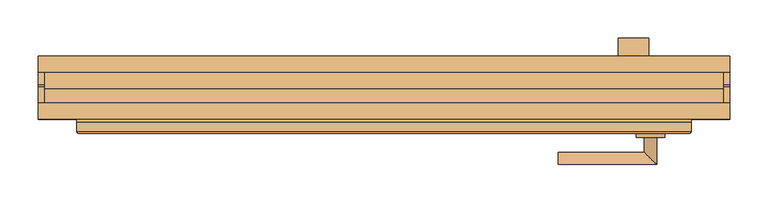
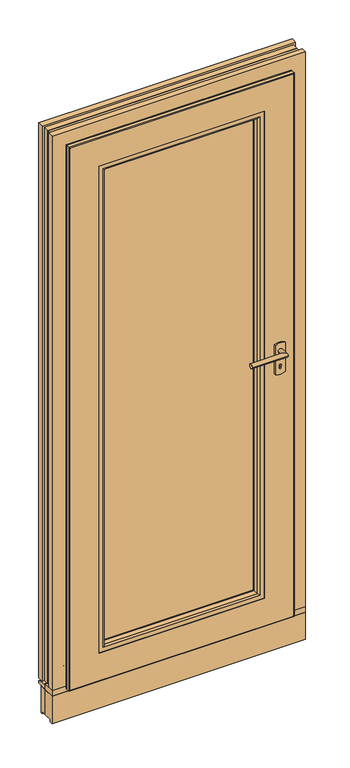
"""IFC4 building model written with IfcOpenShell, lengths in millimetres: door geometry, Doors_GEALAN_S9000_Front-Door : Doors_GEALAN_S9000_Front-Door 2."""

from ifc_helpers import new_model, si_unit, point, frame, frame_2d, origin, origin_with_axes, place, context, project, spatial, polyline, circle_curve, ellipse_curve, trimmed, segment, composite_curve, outline, extrude, faceted_brep, source, transform, mapped, element, save
from ifc_brep_helpers import plane_surface, cylinder_surface, revolved_surface, advanced_brep


def door_bce1670d(model_context):
    return source(origin(), model_context, "Body", "SolidModel", [
        extrude(outline(polyline([(-31.0, 680.9999998), (-31.0, 693.9777955), (-2.4888979, 693.9777955), (-2.4888979, 1380.9999998), (-31.0, 1380.9999998), (-31.0, 1393.9777955), (10.4888979, 1393.9777955), (10.4888979, 680.9999998), (-31.0, 680.9999998)])), frame((305.0988556, 0.0, 0.0), z_axis=(1.0, 0.0, 0.0), x_axis=(0.0, 1.0, 0.0)), (0.0, 0.0, 1.0), 39.8022889),
        advanced_brep(
        [(338.9719061, -118.5, 1030.9999998), (355.0280939, -118.5, 1030.9999998), (338.9719061, -137.9719061, 1030.9999998), (355.0280939, -154.0280939, 1030.9999998), (227.0, -137.9719061, 1030.9999998), (227.0, -154.0280939, 1030.9999998)],
        [
            (0, 1, circle_curve(frame((347.0, -118.5, 1030.9999998), z_axis=(0.0, 1.0, 0.0), x_axis=(1.0, 0.0, 0.0)), 8.0280939)),
            (1, 0, circle_curve(frame((347.0, -118.5, 1030.9999998), z_axis=(0.0, 1.0, 0.0), x_axis=(1.0, 0.0, 0.0)), 8.0280939)),
            (0, 2),
            (2, 3, ellipse_curve(frame((347.0, -146.0, 1030.9999998), z_axis=(0.7071067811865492, 0.7071067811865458, 0.0), x_axis=(-0.7071067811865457, 0.7071067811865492, 0.0)), 11.3534392, 8.0280939)),
            (3, 1),
            (3, 2, ellipse_curve(frame((347.0, -146.0, 1030.9999998), z_axis=(0.7071067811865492, 0.7071067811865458, 0.0), x_axis=(-0.7071067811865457, 0.7071067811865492, 0.0)), 11.3534392, 8.0280939)),
            (4, 5, circle_curve(frame((227.0, -146.0, 1030.9999998), z_axis=(-1.0, 0.0, 0.0), x_axis=(0.0, -1.0, 0.0)), 8.0280939)),
            (5, 4, circle_curve(frame((227.0, -146.0, 1030.9999998), z_axis=(-1.0, 0.0, 0.0), x_axis=(0.0, -1.0, 0.0)), 8.0280939)),
            (2, 4),
            (5, 3),
        ],
        [
            plane_surface(frame((347.0, -118.5, 1030.9999998), z_axis=(0.0, 1.0, 0.0), x_axis=(0.0, 0.0, 1.0))),
            cylinder_surface(frame((347.0, -118.5, 1030.9999998), z_axis=(0.0, 1.0, 0.0), x_axis=(1.0, 0.0, 0.0)), 8.0280939),
            plane_surface(frame((227.0, -146.0, 1030.9999998), z_axis=(-1.0, 0.0, 0.0), x_axis=(0.0, 0.0, 1.0))),
            cylinder_surface(frame((347.0, -146.0, 1030.9999998), z_axis=(1.0, 0.0, 0.0), x_axis=(0.0, -1.0, 0.0)), 8.0280939),
        ],
        [
            (0, [[1, 2]]),
            (1, [[-1, 3, 4, 5]]),
            (1, [[-2, -5, 6, -3]]),
            (2, [[7, 8]]),
            (3, [[-4, 9, -8, 10]]),
            (3, [[-6, -10, -7, -9]]),
        ],
    ),
        advanced_brep(
        [(347.0, -113.5, 1060.4999998), (365.5, -113.5, 1055.4999998), (365.5, -113.5, 947.4999998), (347.0, -113.5, 942.4999998), (328.5, -113.5, 947.4999998), (328.5, -113.5, 1055.4999998), (348.9792033, -113.5, 972.009504), (345.0207967, -113.5, 972.009504), (345.0207967, -113.5, 965.740473), (348.9792033, -113.5, 965.740473), (328.5, -118.5, 1055.4999998), (328.5, -118.5, 947.4999998), (347.0, -118.5, 1060.4999998), (347.0, -118.5, 942.4999998), (365.5, -118.5, 947.4999998), (365.5, -118.5, 1055.4999998), (345.0207967, -118.5, 972.009504), (348.9792033, -118.5, 972.009504), (348.9792033, -118.5, 965.740473), (345.0207967, -118.5, 965.740473)],
        [
            (0, 1, circle_curve(frame((347.0, -113.5, 1023.7749998), z_axis=(0.0, 1.0, 0.0), x_axis=(1.0, 0.0, 0.0)), 36.725)),
            (1, 2),
            (2, 3, circle_curve(frame((347.0, -113.5, 979.2249998), z_axis=(0.0, 1.0, 0.0), x_axis=(1.0, 0.0, 0.0)), 36.725)),
            (3, 4, circle_curve(frame((347.0, -113.5, 979.2249998), z_axis=(0.0, 1.0, 0.0), x_axis=(1.0, 0.0, 0.0)), 36.725)),
            (4, 5),
            (5, 0, circle_curve(frame((347.0, -113.5, 1023.7749998), z_axis=(0.0, 1.0, 0.0), x_axis=(1.0, 0.0, 0.0)), 36.725)),
            (6, 7, circle_curve(frame((347.0, -113.5, 975.5006417), z_axis=(0.0, -1.0, 0.0), x_axis=(1.0, 0.0, 0.0)), 4.0131394)),
            (7, 8),
            (8, 9, circle_curve(frame((347.0, -113.5, 965.740473), z_axis=(0.0, -1.0, 0.0), x_axis=(1.0, 0.0, 0.0)), 1.9792033)),
            (9, 6),
            (10, 5),
            (4, 11),
            (11, 10),
            (12, 10, circle_curve(frame((347.0, -118.5, 1023.7749998), z_axis=(0.0, -1.0, 0.0), x_axis=(1.0, 0.0, 0.0)), 36.725)),
            (11, 13, circle_curve(frame((347.0, -118.5, 979.2249998), z_axis=(0.0, -1.0, 0.0), x_axis=(1.0, 0.0, 0.0)), 36.725)),
            (13, 14, circle_curve(frame((347.0, -118.5, 979.2249998), z_axis=(0.0, -1.0, 0.0), x_axis=(1.0, 0.0, 0.0)), 36.725)),
            (14, 15),
            (15, 12, circle_curve(frame((347.0, -118.5, 1023.7749998), z_axis=(0.0, -1.0, 0.0), x_axis=(1.0, 0.0, 0.0)), 36.725)),
            (16, 17, circle_curve(frame((347.0, -118.5, 975.5006417), z_axis=(0.0, 1.0, 0.0), x_axis=(1.0, 0.0, 0.0)), 4.0131394)),
            (17, 18),
            (18, 19, circle_curve(frame((347.0, -118.5, 965.740473), z_axis=(0.0, 1.0, 0.0), x_axis=(1.0, 0.0, 0.0)), 1.9792033)),
            (19, 16),
            (1, 15),
            (14, 2),
            (6, 17),
            (16, 7),
            (19, 8),
            (18, 9),
        ],
        [
            plane_surface(frame((365.5, -113.5, 1060.4999998), z_axis=(0.0, 1.0, 0.0), x_axis=(0.0, 0.0, -1.0))),
            plane_surface(frame((328.5, -113.5, 1060.4999998), z_axis=(-1.0, 0.0, 0.0), x_axis=(0.0, 0.0, -1.0))),
            plane_surface(frame((328.5, -118.5, 1060.4999998), z_axis=(0.0, -1.0, 0.0), x_axis=(0.0, 0.0, -1.0))),
            plane_surface(frame((365.5, -118.5, 1060.4999998), z_axis=(1.0, 0.0, 0.0), x_axis=(0.0, 0.0, -1.0))),
            revolved_surface(polyline([(351.0131394, -118.5, 975.5006417), (351.0131394, -113.5, 975.5006417)]), (347.0, -108.5, 975.5006417), (0.0, -1.0, 0.0)),
            plane_surface(frame((345.0207967, -358.5, 972.009504), z_axis=(1.0, 0.0, 0.0), x_axis=(0.0, 1.0, 0.0))),
            revolved_surface(polyline([(348.9792033, -118.5, 965.740473), (348.9792033, -113.5, 965.740473)]), (347.0, -108.5, 965.740473), (0.0, -1.0, 0.0)),
            plane_surface(frame((348.9792033, -358.5, 965.740473), z_axis=(-1.0, 0.0, 0.0), x_axis=(0.0, 1.0, 0.0))),
            cylinder_surface(frame((347.0, -108.5, 1023.7749998), z_axis=(0.0, 1.0, 0.0), x_axis=(1.0, 0.0, 0.0)), 36.725),
            cylinder_surface(frame((347.0, -108.5, 979.2249998), z_axis=(0.0, 1.0, 0.0), x_axis=(1.0, 0.0, 0.0)), 36.725),
        ],
        [
            (0, [[1, 2, 3, 4, 5, 6], [7, 8, 9, 10]]),
            (1, [[11, -5, 12, 13]]),
            (2, [[14, -13, 15, 16, 17, 18], [19, 20, 21, 22]]),
            (3, [[23, -17, 24, -2]]),
            (4, [[25, -19, 26, -7]]),
            (5, [[-26, -22, 27, -8]]),
            (6, [[-27, -21, 28, -9]]),
            (7, [[-25, -10, -28, -20]]),
            (8, [[-1, -6, -11, -14, -18, -23]]),
            (9, [[-4, -3, -24, -16, -15, -12]]),
        ],
    ),
        extrude(outline(polyline([(-289.0, -49.0), (289.0, -49.0), (289.0, -89.0), (-289.0, -89.0), (-289.0, -49.0)])), frame((0.0, 0.0, 122.9999998), z_axis=(0.0, 0.0, 1.0), x_axis=(1.0, 0.0, 0.0)), (0.0, 0.0, 1.0), 1816.0),
        extrude(outline(polyline([(129.2876963, -282.7123035), (129.2876963, 282.7123035), (1932.7123033, 282.7123035), (1932.7123033, -282.7123035), (129.2876963, -282.7123035)]), holes=[polyline([(1917.7123033, -267.7123035), (1917.7123033, 267.7123035), (144.2876963, 267.7123035), (144.2876963, -267.7123035), (1917.7123033, -267.7123035)])]), frame((0.0, -49.0, 0.0), z_axis=(0.0, 1.0, 0.0), x_axis=(0.0, 0.0, 1.0)), (0.0, 0.0, 1.0), 3.0),
        extrude(outline(polyline([(132.4987826, -279.5012172), (132.4987826, 279.5012172), (1929.501217, 279.5012172), (1929.501217, -279.5012172), (132.4987826, -279.5012172)]), holes=[polyline([(1918.001217, -268.0012172), (1918.001217, 268.0012172), (143.9987826, 268.0012172), (143.9987826, -268.0012172), (1918.001217, -268.0012172)])]), frame((0.0, -91.5, 0.0), z_axis=(0.0, 1.0, 0.0), x_axis=(0.0, 0.0, 1.0)), (0.0, 0.0, 1.0), 2.5),
        extrude(outline(polyline([(11.9999998, -400.0), (11.9999998, 400.0), (2049.9999998, 400.0), (2049.9999998, -400.0), (11.9999998, -400.0)]), holes=[polyline([(2041.1999998, -391.2), (2041.1999998, 391.2), (20.7999998, 391.2), (20.7999998, -391.2), (2041.1999998, -391.2)])]), frame((0.0, -98.5, 0.0), z_axis=(0.0, 1.0, 0.0), x_axis=(0.0, 0.0, 1.0)), (0.0, 0.0, 1.0), 3.5),
        advanced_brep(
        [(-275.9578203, -31.0118988, 1925.95782), (-270.5399484, -35.4470857, 1920.5399482), (-270.5399484, -35.4470857, 141.4600514), (-275.9578203, -31.0118988, 136.0421795), (-371.9644818, -52.4682195, 2021.9644816), (-371.9644818, -31.0118988, 2021.9644816), (-371.9644818, -31.0118988, 40.0355179), (-371.9644818, -52.4682195, 40.0355179), (-380.0, -72.5, 2029.9999998), (-380.0, -52.4682195, 2029.9999998), (-380.0, -52.4682195, 31.9999998), (-380.0, -72.5, 31.9999998), (-298.1, -46.0, 1948.0999998), (-298.1, -72.5, 1948.0999998), (-298.1, -72.5, 113.8999998), (-298.1, -46.0, 113.8999998), (-267.7123035, -46.0, 1917.7123033), (-267.7123035, -46.0, 144.2876963), (270.5399484, -35.4470857, 141.4600514), (275.9578203, -31.0118988, 136.0421795), (371.9644818, -31.0118988, 40.0355179), (371.9644818, -52.4682195, 40.0355179), (380.0, -52.4682195, 31.9999998), (380.0, -72.5, 31.9999998), (298.1, -72.5, 113.8999998), (298.1, -46.0, 113.8999998), (267.7123035, -46.0, 144.2876963), (270.5399484, -35.4470857, 1920.5399482), (275.9578203, -31.0118988, 1925.95782), (371.9644818, -31.0118988, 2021.9644816), (371.9644818, -52.4682195, 2021.9644816), (380.0, -52.4682195, 2029.9999998), (380.0, -72.5, 2029.9999998), (298.1, -72.5, 1948.0999998), (298.1, -46.0, 1948.0999998), (267.7123035, -46.0, 1917.7123033)],
        [
            (0, 1, ellipse_curve(frame((-276.3355033, -37.0, 1926.3355031), z_axis=(-0.7071067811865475, 0.0, -0.7071067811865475), x_axis=(-0.7071067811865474, 0.0, 0.7071067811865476)), 8.4852814, 6.0)),
            (1, 2),
            (2, 3, ellipse_curve(frame((-276.3355033, -37.0, 135.6644965), z_axis=(-0.7071067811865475, 0.0, 0.7071067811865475), x_axis=(0.7071067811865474, 0.0, 0.7071067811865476)), 8.4852814, 6.0)),
            (3, 0),
            (4, 5),
            (5, 6),
            (6, 7),
            (7, 4),
            (8, 9),
            (9, 10),
            (10, 11),
            (11, 8),
            (12, 13),
            (13, 14),
            (14, 15),
            (15, 12),
            (1, 16),
            (16, 17),
            (17, 2),
            (2, 18),
            (18, 19, ellipse_curve(frame((276.3355033, -37.0, 135.6644965), z_axis=(-0.7071067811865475, 0.0, -0.7071067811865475), x_axis=(-0.7071067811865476, 0.0, 0.7071067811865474)), 8.4852814, 6.0)),
            (19, 3),
            (6, 20),
            (20, 21),
            (21, 7),
            (10, 22),
            (22, 23),
            (23, 11),
            (14, 24),
            (24, 25),
            (25, 15),
            (17, 26),
            (26, 18),
            (18, 27),
            (27, 28, ellipse_curve(frame((276.3355033, -37.0, 1926.3355031), z_axis=(0.7071067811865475, 0.0, -0.7071067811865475), x_axis=(-0.7071067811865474, 0.0, -0.7071067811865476)), 8.4852814, 6.0)),
            (28, 19),
            (20, 29),
            (29, 30),
            (30, 21),
            (22, 31),
            (31, 32),
            (32, 23),
            (24, 33),
            (33, 34),
            (34, 25),
            (26, 35),
            (35, 27),
            (27, 1),
            (0, 28),
            (5, 29),
            (4, 30),
            (9, 31),
            (8, 32),
            (13, 33),
            (12, 34),
            (16, 35),
        ],
        [
            cylinder_surface(frame((-276.3355033, -37.0, 2049.9999998), z_axis=(0.0, 0.0, 1.0), x_axis=(0.0, -1.0, 0.0)), 6.0),
            plane_surface(frame((-371.9644818, -31.0118988, 2021.9644816), z_axis=(-1.0, 0.0, 0.0), x_axis=(0.0, 0.0, -1.0))),
            plane_surface(frame((-380.0, -52.4682195, 2029.9999998), z_axis=(-1.0, 0.0, 0.0), x_axis=(0.0, 0.0, -1.0))),
            plane_surface(frame((-298.1, -72.5, 1948.0999998), z_axis=(1.0, 0.0, 0.0), x_axis=(0.0, 0.0, -1.0))),
            plane_surface(frame((-267.7123035, -46.0, 1917.7123033), z_axis=(0.9659258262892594, 0.25881904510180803, 0.0), x_axis=(0.0, 0.0, -1.0))),
            cylinder_surface(frame((-400.0, -37.0, 135.6644965), z_axis=(-1.0, 0.0, 0.0), x_axis=(0.0, -1.0, 0.0)), 6.0),
            plane_surface(frame((-371.9644818, -31.0118988, 40.0355179), z_axis=(0.0, 0.0, -1.0), x_axis=(1.0, 0.0, 0.0))),
            plane_surface(frame((-380.0, -52.4682195, 31.9999998), z_axis=(0.0, 0.0, -1.0), x_axis=(1.0, 0.0, 0.0))),
            plane_surface(frame((-298.1, -72.5, 113.8999998), z_axis=(0.0, 0.0, 1.0), x_axis=(1.0, 0.0, 0.0))),
            plane_surface(frame((-267.7123035, -46.0, 144.2876963), z_axis=(0.0, 0.25881904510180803, 0.9659258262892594), x_axis=(1.0, 0.0, 0.0))),
            cylinder_surface(frame((276.3355033, -37.0, 11.9999998), z_axis=(0.0, 0.0, -1.0), x_axis=(0.0, -1.0, 0.0)), 6.0),
            plane_surface(frame((371.9644818, -31.0118988, 40.0355179), z_axis=(1.0, 0.0, 0.0), x_axis=(0.0, 0.0, 1.0))),
            plane_surface(frame((380.0, -52.4682195, 31.9999998), z_axis=(1.0, 0.0, 0.0), x_axis=(0.0, 0.0, 1.0))),
            plane_surface(frame((298.1, -72.5, 113.8999998), z_axis=(-1.0, 0.0, 0.0), x_axis=(0.0, 0.0, 1.0))),
            plane_surface(frame((267.7123035, -46.0, 144.2876963), z_axis=(-0.9659258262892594, 0.25881904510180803, 0.0), x_axis=(0.0, 0.0, 1.0))),
            cylinder_surface(frame((400.0, -37.0, 1926.3355031), z_axis=(1.0, 0.0, 0.0), x_axis=(0.0, -1.0, 0.0)), 6.0),
            plane_surface(frame((275.9578203, -31.0118988, 1925.95782), z_axis=(0.0, 1.0, 0.0), x_axis=(-1.0, 0.0, 0.0))),
            plane_surface(frame((371.9644818, -31.0118988, 2021.9644816), z_axis=(0.0, 0.0, 1.0), x_axis=(-1.0, 0.0, 0.0))),
            plane_surface(frame((371.9644818, -52.4682195, 2021.9644816), z_axis=(0.0, 1.0, 0.0), x_axis=(-1.0, 0.0, 0.0))),
            plane_surface(frame((380.0, -52.4682195, 2029.9999998), z_axis=(0.0, 0.0, 1.0), x_axis=(-1.0, 0.0, 0.0))),
            plane_surface(frame((380.0, -72.5, 2029.9999998), z_axis=(0.0, -1.0, 0.0), x_axis=(-1.0, 0.0, 0.0))),
            plane_surface(frame((298.1, -72.5, 1948.0999998), z_axis=(0.0, 0.0, -1.0), x_axis=(-1.0, 0.0, 0.0))),
            plane_surface(frame((298.1, -46.0, 1948.0999998), z_axis=(0.0, -1.0, 0.0), x_axis=(-1.0, 0.0, 0.0))),
            plane_surface(frame((267.7123035, -46.0, 1917.7123033), z_axis=(0.0, 0.25881904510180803, -0.9659258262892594), x_axis=(-1.0, 0.0, 0.0))),
        ],
        [
            (0, [[1, 2, 3, 4]]),
            (1, [[5, 6, 7, 8]]),
            (2, [[9, 10, 11, 12]]),
            (3, [[13, 14, 15, 16]]),
            (4, [[17, 18, 19, -2]]),
            (5, [[-3, 20, 21, 22]]),
            (6, [[-7, 23, 24, 25]]),
            (7, [[-11, 26, 27, 28]]),
            (8, [[-15, 29, 30, 31]]),
            (9, [[-19, 32, 33, -20]]),
            (10, [[-21, 34, 35, 36]]),
            (11, [[-24, 37, 38, 39]]),
            (12, [[-27, 40, 41, 42]]),
            (13, [[-30, 43, 44, 45]]),
            (14, [[-33, 46, 47, -34]]),
            (15, [[-35, 48, -1, 49]]),
            (16, [[50, -37, -23, -6], [-22, -36, -49, -4]]),
            (17, [[-38, -50, -5, 51]]),
            (18, [[52, -40, -26, -10], [-25, -39, -51, -8]]),
            (19, [[-41, -52, -9, 53]]),
            (20, [[-28, -42, -53, -12], [54, -43, -29, -14]]),
            (21, [[-44, -54, -13, 55]]),
            (22, [[-31, -45, -55, -16], [56, -46, -32, -18]]),
            (23, [[-47, -56, -17, -48]]),
        ],
    ),
        advanced_brep(
        [(-400.0, -111.0, 2049.9999998), (-400.0, -98.5, 2049.9999998), (-400.0, -98.5, 11.9999998), (-400.0, -111.0, 11.9999998), (-397.5, -113.5, 2047.4999998), (-397.5, -113.5, 14.4999998), (-294.0, -113.5, 1943.9999998), (-294.0, -113.5, 117.9999998), (-294.0, -101.5718587, 117.9999998), (-294.0, -101.5718587, 1943.9999998), (-298.1, -72.5, 1948.0999998), (-298.1, -101.5718587, 1948.0999998), (-298.1, -101.5718587, 113.8999998), (-298.1, -72.5, 113.8999998), (-380.0, -98.5, 2029.9999998), (-380.0, -72.5, 2029.9999998), (-380.0, -72.5, 31.9999998), (-380.0, -98.5, 31.9999998), (400.0, -98.5, 11.9999998), (400.0, -111.0, 11.9999998), (397.5, -113.5, 14.4999998), (294.0, -113.5, 117.9999998), (294.0, -101.5718587, 117.9999998), (298.1, -101.5718587, 113.8999998), (298.1, -72.5, 113.8999998), (380.0, -72.5, 31.9999998), (380.0, -98.5, 31.9999998), (400.0, -98.5, 2049.9999998), (400.0, -111.0, 2049.9999998), (397.5, -113.5, 2047.4999998), (294.0, -113.5, 1943.9999998), (294.0, -101.5718587, 1943.9999998), (298.1, -101.5718587, 1948.0999998), (298.1, -72.5, 1948.0999998), (380.0, -72.5, 2029.9999998), (380.0, -98.5, 2029.9999998)],
        [
            (0, 1),
            (1, 2),
            (2, 3),
            (3, 0),
            (4, 0, ellipse_curve(frame((-397.5, -111.0, 2047.4999998), z_axis=(-0.7071067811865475, 0.0, -0.7071067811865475), x_axis=(-0.7071067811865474, 0.0, 0.7071067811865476)), 3.5355339, 2.5)),
            (3, 5, ellipse_curve(frame((-397.5, -111.0, 14.4999998), z_axis=(-0.7071067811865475, 0.0, 0.7071067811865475), x_axis=(0.7071067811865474, 0.0, 0.7071067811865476)), 3.5355339, 2.5)),
            (5, 4),
            (6, 7),
            (7, 8),
            (8, 9),
            (9, 6),
            (10, 11),
            (11, 12),
            (12, 13),
            (13, 10),
            (14, 15),
            (15, 16),
            (16, 17),
            (17, 14),
            (2, 18),
            (18, 19),
            (19, 3),
            (19, 20, ellipse_curve(frame((397.5, -111.0, 14.4999998), z_axis=(-0.7071067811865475, 0.0, -0.7071067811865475), x_axis=(-0.7071067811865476, 0.0, 0.7071067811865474)), 3.5355339, 2.5)),
            (20, 5),
            (7, 21),
            (21, 22),
            (22, 8),
            (12, 23),
            (23, 24),
            (24, 13),
            (16, 25),
            (25, 26),
            (26, 17),
            (18, 27),
            (27, 28),
            (28, 19),
            (28, 29, ellipse_curve(frame((397.5, -111.0, 2047.4999998), z_axis=(0.7071067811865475, 0.0, -0.7071067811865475), x_axis=(-0.7071067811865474, 0.0, -0.7071067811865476)), 3.5355339, 2.5)),
            (29, 20),
            (21, 30),
            (30, 31),
            (31, 22),
            (23, 32),
            (32, 33),
            (33, 24),
            (25, 34),
            (34, 35),
            (35, 26),
            (27, 1),
            (0, 28),
            (4, 29),
            (6, 30),
            (9, 31),
            (11, 32),
            (10, 33),
            (15, 34),
            (14, 35),
        ],
        [
            plane_surface(frame((-400.0, -98.5, 2049.9999998), z_axis=(-1.0, 0.0, 0.0), x_axis=(0.0, 0.0, -1.0))),
            cylinder_surface(frame((-397.5, -111.0, 2049.9999998), z_axis=(0.0, 0.0, 1.0), x_axis=(0.0, -1.0, 0.0)), 2.5),
            plane_surface(frame((-294.0, -106.2, 1943.9999998), z_axis=(1.0, 0.0, 0.0), x_axis=(0.0, 0.0, -1.0))),
            plane_surface(frame((-298.1, -101.5718587, 1948.0999998), z_axis=(1.0, 0.0, 0.0), x_axis=(0.0, 0.0, -1.0))),
            plane_surface(frame((-380.0, -72.5, 2029.9999998), z_axis=(-1.0, 0.0, 0.0), x_axis=(0.0, 0.0, -1.0))),
            plane_surface(frame((-400.0, -98.5, 11.9999998), z_axis=(0.0, 0.0, -1.0), x_axis=(1.0, 0.0, 0.0))),
            cylinder_surface(frame((-400.0, -111.0, 14.4999998), z_axis=(-1.0, 0.0, 0.0), x_axis=(0.0, -1.0, 0.0)), 2.5),
            plane_surface(frame((-294.0, -106.2, 117.9999998), z_axis=(0.0, 0.0, 1.0), x_axis=(1.0, 0.0, 0.0))),
            plane_surface(frame((-298.1, -101.5718587, 113.8999998), z_axis=(0.0, 0.0, 1.0), x_axis=(1.0, 0.0, 0.0))),
            plane_surface(frame((-380.0, -72.5, 31.9999998), z_axis=(0.0, 0.0, -1.0), x_axis=(1.0, 0.0, 0.0))),
            plane_surface(frame((400.0, -98.5, 11.9999998), z_axis=(1.0, 0.0, 0.0), x_axis=(0.0, 0.0, 1.0))),
            cylinder_surface(frame((397.5, -111.0, 11.9999998), z_axis=(0.0, 0.0, -1.0), x_axis=(0.0, -1.0, 0.0)), 2.5),
            plane_surface(frame((294.0, -106.2, 117.9999998), z_axis=(-1.0, 0.0, 0.0), x_axis=(0.0, 0.0, 1.0))),
            plane_surface(frame((298.1, -101.5718587, 113.8999998), z_axis=(-1.0, 0.0, 0.0), x_axis=(0.0, 0.0, 1.0))),
            plane_surface(frame((380.0, -72.5, 31.9999998), z_axis=(1.0, 0.0, 0.0), x_axis=(0.0, 0.0, 1.0))),
            plane_surface(frame((400.0, -98.5, 2049.9999998), z_axis=(0.0, 0.0, 1.0), x_axis=(-1.0, 0.0, 0.0))),
            cylinder_surface(frame((400.0, -111.0, 2047.4999998), z_axis=(1.0, 0.0, 0.0), x_axis=(0.0, -1.0, 0.0)), 2.5),
            plane_surface(frame((397.5, -113.5, 2047.4999998), z_axis=(0.0, -1.0, 0.0), x_axis=(-1.0, 0.0, 0.0))),
            plane_surface(frame((294.0, -106.2, 1943.9999998), z_axis=(0.0, 0.0, -1.0), x_axis=(-1.0, 0.0, 0.0))),
            plane_surface(frame((294.0, -101.5718587, 1943.9999998), z_axis=(0.0, 1.0, 0.0), x_axis=(-1.0, 0.0, 0.0))),
            plane_surface(frame((298.1, -101.5718587, 1948.0999998), z_axis=(0.0, 0.0, -1.0), x_axis=(-1.0, 0.0, 0.0))),
            plane_surface(frame((298.1, -72.5, 1948.0999998), z_axis=(0.0, 1.0, 0.0), x_axis=(-1.0, 0.0, 0.0))),
            plane_surface(frame((380.0, -72.5, 2029.9999998), z_axis=(0.0, 0.0, 1.0), x_axis=(-1.0, 0.0, 0.0))),
            plane_surface(frame((380.0, -98.5, 2029.9999998), z_axis=(0.0, 1.0, 0.0), x_axis=(-1.0, 0.0, 0.0))),
        ],
        [
            (0, [[1, 2, 3, 4]]),
            (1, [[5, -4, 6, 7]]),
            (2, [[8, 9, 10, 11]]),
            (3, [[12, 13, 14, 15]]),
            (4, [[16, 17, 18, 19]]),
            (5, [[-3, 20, 21, 22]]),
            (6, [[-6, -22, 23, 24]]),
            (7, [[-9, 25, 26, 27]]),
            (8, [[-14, 28, 29, 30]]),
            (9, [[-18, 31, 32, 33]]),
            (10, [[-21, 34, 35, 36]]),
            (11, [[-23, -36, 37, 38]]),
            (12, [[-26, 39, 40, 41]]),
            (13, [[-29, 42, 43, 44]]),
            (14, [[-32, 45, 46, 47]]),
            (15, [[-35, 48, -1, 49]]),
            (16, [[-37, -49, -5, 50]]),
            (17, [[-24, -38, -50, -7], [51, -39, -25, -8]]),
            (18, [[-40, -51, -11, 52]]),
            (19, [[53, -42, -28, -13], [-27, -41, -52, -10]]),
            (20, [[-43, -53, -12, 54]]),
            (21, [[55, -45, -31, -17], [-30, -44, -54, -15]]),
            (22, [[-46, -55, -16, 56]]),
            (23, [[-48, -34, -20, -2], [-33, -47, -56, -19]]),
        ],
    ),
        extrude(outline(composite_curve([segment(trimmed(circle_curve(frame_2d((-18.0967029, 32.7039134)), 4.9967036), [point((-17.2317591, 37.6251855))], [point((-13.1, 32.7011468))], False, "CARTESIAN"), True, "CONTINUOUS"), segment(polyline([(-13.1, 32.7011468), (-13.1, 31.2999998), (-14.7, 31.2999998), (-14.7, 32.7011468)]), True, "CONTINUOUS"), segment(trimmed(circle_curve(frame_2d((-18.1, 32.7011468)), 3.4), [point((-14.7, 32.7011468))], [point((-17.5095962, 36.0494931))], True, "CARTESIAN"), True, "CONTINUOUS"), segment(polyline([(-17.5095962, 36.0494931), (-30.8399819, 38.3999998), (-34.4, 38.3999998), (-34.4, 31.7999998)]), True, "CONTINUOUS"), segment(trimmed(circle_curve(frame_2d((-35.0, 31.7999998)), 0.6), [point((-34.4, 31.7999998))], [point((-35.6, 31.7999998))], False, "CARTESIAN"), True, "CONTINUOUS"), segment(polyline([(-35.6, 31.7999998), (-35.6, 33.0999998), (-48.7772963, 33.0999998), (-48.7772963, 19.9986184), (-64.6381869, 19.9986184), (-64.6381869, 31.9986184), (-52.4381869, 31.9986184), (-52.4381869, 34.6999998), (-41.3, 34.6999998), (-41.3, 39.9999998), (-30.7437443, 39.9999998), (-17.2317591, 37.6251855)]), True, "CONTINUOUS")], self_intersect=False)), frame((-366.0, 0.0, 0.0), z_axis=(1.0, 0.0, 0.0), x_axis=(0.0, 1.0, 0.0)), (0.0, 0.0, 1.0), 732.0),
        advanced_brep(
        [(-271.8959832, -107.5529143, 1921.895983), (-277.6915381, -112.0, 1927.6915379), (-277.6915381, -112.0, 134.3084616), (-271.8959832, -107.5529143, 140.1040166), (-268.0012172, -93.0174497, 1918.001217), (-268.0012172, -93.0174497, 143.9987826), (-268.0012172, -91.5, 1918.001217), (-268.0012172, -91.5, 143.9987826), (-281.1432253, -96.5, 1931.143225), (-279.8034793, -91.5, 1929.8034791), (-279.8034793, -91.5, 132.1965205), (-281.1432253, -96.5, 130.8567745), (-294.0, -96.5, 1943.9999998), (-294.0, -96.5, 117.9999998), (-294.0, -112.0, 117.9999998), (-294.0, -112.0, 1943.9999998), (277.6915381, -112.0, 134.3084616), (271.8959832, -107.5529143, 140.1040166), (268.0012172, -93.0174497, 143.9987826), (268.0012172, -91.5, 143.9987826), (279.8034793, -91.5, 132.1965205), (281.1432253, -96.5, 130.8567745), (294.0, -96.5, 117.9999998), (294.0, -112.0, 117.9999998), (277.6915381, -112.0, 1927.6915379), (271.8959832, -107.5529143, 1921.895983), (268.0012172, -93.0174497, 1918.001217), (268.0012172, -91.5, 1918.001217), (279.8034793, -91.5, 1929.8034791), (281.1432253, -96.5, 1931.143225), (294.0, -96.5, 1943.9999998), (294.0, -112.0, 1943.9999998)],
        [
            (0, 1, ellipse_curve(frame((-277.6915381, -106.0, 1927.6915379), z_axis=(-0.707106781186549, 0.0, -0.7071067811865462), x_axis=(-0.7071067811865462, 0.0, 0.7071067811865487)), 8.4852814, 6.0)),
            (1, 2),
            (2, 3, ellipse_curve(frame((-277.6915381, -106.0, 134.3084616), z_axis=(-0.7071067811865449, 0.0, 0.70710678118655), x_axis=(0.7071067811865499, 0.0, 0.707106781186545)), 8.4852814, 6.0)),
            (3, 0),
            (4, 0),
            (3, 5),
            (5, 4),
            (6, 4),
            (5, 7),
            (7, 6),
            (8, 9),
            (9, 10),
            (10, 11),
            (11, 8),
            (12, 13),
            (13, 14),
            (14, 15),
            (15, 12),
            (2, 16),
            (16, 17, ellipse_curve(frame((277.6915381, -106.0, 134.3084616), z_axis=(-0.7071067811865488, 0.0, -0.7071067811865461), x_axis=(-0.7071067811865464, 0.0, 0.7071067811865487)), 8.4852814, 6.0)),
            (17, 3),
            (17, 18),
            (18, 5),
            (18, 19),
            (19, 7),
            (10, 20),
            (20, 21),
            (21, 11),
            (13, 22),
            (22, 23),
            (23, 14),
            (16, 24),
            (24, 25, ellipse_curve(frame((277.6915381, -106.0, 1927.6915379), z_axis=(0.7071067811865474, 0.0, -0.7071067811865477), x_axis=(-0.7071067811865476, 0.0, -0.7071067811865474)), 8.4852814, 6.0)),
            (25, 17),
            (25, 26),
            (26, 18),
            (26, 27),
            (27, 19),
            (20, 28),
            (28, 29),
            (29, 21),
            (22, 30),
            (30, 31),
            (31, 23),
            (24, 1),
            (0, 25),
            (4, 26),
            (6, 27),
            (9, 28),
            (8, 29),
            (12, 30),
            (15, 31),
        ],
        [
            cylinder_surface(frame((-277.6915381, -106.0, 2049.9999998), z_axis=(0.0, 0.0, 1.0), x_axis=(0.9659258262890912, -0.2588190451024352, 0.0)), 6.0),
            plane_surface(frame((-271.8959832, -107.5529143, 1921.895983), z_axis=(0.9659258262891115, -0.25881904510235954, 0.0), x_axis=(0.0, 0.0, -1.0))),
            plane_surface(frame((-268.0012172, -93.0174497, 1918.001217), z_axis=(1.0, 0.0, 0.0), x_axis=(0.0, 0.0, -1.0))),
            plane_surface(frame((-279.8034793, -91.5, 1929.8034791), z_axis=(-0.9659258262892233, 0.2588190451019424, 0.0), x_axis=(0.0, 0.0, -1.0))),
            plane_surface(frame((-294.0, -111.0, 1943.9999998), z_axis=(-1.0, 0.0, 0.0), x_axis=(0.0, 0.0, -1.0))),
            cylinder_surface(frame((-400.0, -106.0, 134.3084616), z_axis=(-1.0, 0.0, 0.0), x_axis=(0.0, -0.2588190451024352, 0.9659258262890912)), 6.0),
            plane_surface(frame((-271.8959832, -107.5529143, 140.1040166), z_axis=(0.0, -0.25881904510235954, 0.9659258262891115), x_axis=(1.0, 0.0, 0.0))),
            plane_surface(frame((-268.0012172, -93.0174497, 143.9987826), z_axis=(0.0, 0.0, 1.0), x_axis=(1.0, 0.0, 0.0))),
            plane_surface(frame((-279.8034793, -91.5, 132.1965205), z_axis=(0.0, 0.2588190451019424, -0.9659258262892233), x_axis=(1.0, 0.0, 0.0))),
            plane_surface(frame((-294.0, -111.0, 117.9999998), z_axis=(0.0, 0.0, -1.0), x_axis=(1.0, 0.0, 0.0))),
            cylinder_surface(frame((277.6915381, -106.0, 11.9999998), z_axis=(0.0, 0.0, -1.0), x_axis=(-0.9659258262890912, -0.2588190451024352, 0.0)), 6.0),
            plane_surface(frame((271.8959832, -107.5529143, 140.1040166), z_axis=(-0.9659258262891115, -0.25881904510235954, 0.0), x_axis=(0.0, 0.0, 1.0))),
            plane_surface(frame((268.0012172, -93.0174497, 143.9987826), z_axis=(-1.0, 0.0, 0.0), x_axis=(0.0, 0.0, 1.0))),
            plane_surface(frame((279.8034793, -91.5, 132.1965205), z_axis=(0.9659258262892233, 0.2588190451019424, 0.0), x_axis=(0.0, 0.0, 1.0))),
            plane_surface(frame((294.0, -111.0, 117.9999998), z_axis=(1.0, 0.0, 0.0), x_axis=(0.0, 0.0, 1.0))),
            cylinder_surface(frame((400.0, -106.0, 1927.6915379), z_axis=(1.0, 0.0, 0.0), x_axis=(0.0, -0.2588190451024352, -0.9659258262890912)), 6.0),
            plane_surface(frame((271.8959832, -107.5529143, 1921.895983), z_axis=(0.0, -0.25881904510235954, -0.9659258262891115), x_axis=(-1.0, 0.0, 0.0))),
            plane_surface(frame((268.0012172, -93.0174497, 1918.001217), z_axis=(0.0, 0.0, -1.0), x_axis=(-1.0, 0.0, 0.0))),
            plane_surface(frame((268.0012172, -91.5, 1918.001217), z_axis=(0.0, 1.0, 0.0), x_axis=(-1.0, 0.0, 0.0))),
            plane_surface(frame((279.8034793, -91.5, 1929.8034791), z_axis=(0.0, 0.2588190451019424, 0.9659258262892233), x_axis=(-1.0, 0.0, 0.0))),
            plane_surface(frame((281.1432253, -96.5, 1931.143225), z_axis=(0.0, 1.0, 0.0), x_axis=(-1.0, 0.0, 0.0))),
            plane_surface(frame((294.0, -111.0, 1943.9999998), z_axis=(0.0, 0.0, 1.0), x_axis=(-1.0, 0.0, 0.0))),
            plane_surface(frame((294.0, -112.0, 1943.9999998), z_axis=(0.0, -1.0, 0.0), x_axis=(-1.0, 0.0, 0.0))),
        ],
        [
            (0, [[1, 2, 3, 4]]),
            (1, [[5, -4, 6, 7]]),
            (2, [[8, -7, 9, 10]]),
            (3, [[11, 12, 13, 14]]),
            (4, [[15, 16, 17, 18]]),
            (5, [[-3, 19, 20, 21]]),
            (6, [[-6, -21, 22, 23]]),
            (7, [[-9, -23, 24, 25]]),
            (8, [[-13, 26, 27, 28]]),
            (9, [[-16, 29, 30, 31]]),
            (10, [[-20, 32, 33, 34]]),
            (11, [[-22, -34, 35, 36]]),
            (12, [[-24, -36, 37, 38]]),
            (13, [[-27, 39, 40, 41]]),
            (14, [[-30, 42, 43, 44]]),
            (15, [[-33, 45, -1, 46]]),
            (16, [[-35, -46, -5, 47]]),
            (17, [[-37, -47, -8, 48]]),
            (18, [[49, -39, -26, -12], [-25, -38, -48, -10]]),
            (19, [[-40, -49, -11, 50]]),
            (20, [[51, -42, -29, -15], [-28, -41, -50, -14]]),
            (21, [[-43, -51, -18, 52]]),
            (22, [[-31, -44, -52, -17], [-45, -32, -19, -2]]),
        ],
    ),
        extrude(outline(polyline([(-53.0, 0.0), (-53.0, -94.0), (-82.5, -94.0), (-82.5, -102.0), (-95.0, -102.0), (-95.0, 0.0), (-53.0, 0.0)])), frame((-450.0, 0.0, 0.0), z_axis=(1.0, 0.0, 0.0), x_axis=(0.0, 1.0, 0.0)), (0.0, 0.0, 1.0), 900.0),
        extrude(outline(polyline([(-29.0, 0.0), (-29.0, -102.0), (-33.5, -102.0), (-33.5, -94.0), (-53.0, -94.0), (-53.0, 0.0), (-29.0, 0.0)])), frame((-450.0, 0.0, 0.0), z_axis=(1.0, 0.0, 0.0), x_axis=(0.0, 1.0, 0.0)), (0.0, 0.0, 1.0), 900.0),
        extrude(outline(polyline([(450.0, -53.0), (450.0, -95.0), (-450.0, -95.0), (-450.0, -53.0), (450.0, -53.0)])), origin_with_axes(), (0.0, 0.0, 1.0), 20.0),
        extrude(outline(composite_curve([segment(trimmed(circle_curve(frame_2d((-18.5, 5.9)), 6.0), [point((-17.7687839, 11.8552769))], [point((-12.5, 5.9))], False, "CARTESIAN"), True, "CONTINUOUS"), segment(polyline([(-12.5, 5.9), (-12.5, 0.0), (-53.0, 0.0), (-53.0, 20.0), (-50.3, 20.0), (-50.3, 15.849608), (-17.7687839, 11.8552769)]), True, "CONTINUOUS")], self_intersect=False)), frame((-450.0, 0.0, 0.0), z_axis=(1.0, 0.0, 0.0), x_axis=(0.0, 1.0, 0.0)), (0.0, 0.0, 1.0), 900.0),
        advanced_brep(
        [(366.0, -26.47229, 2016.0), (368.5522708, -16.9470857, 2018.5522708), (368.5522708, -16.9470857, 20.0), (366.0, -26.47229, 20.0), (366.0, -27.5, 2016.0), (366.0, -27.5, 20.0), (396.1, -41.5113286, 2046.1), (399.0781998, -27.5, 2049.0781998), (399.0781998, -27.5, 20.0), (396.1, -41.5113286, 20.0), (396.1, -55.0, 2046.1), (396.1, -55.0, 20.0), (442.0, -33.5, 2092.0), (442.0, -55.0, 2092.0), (442.0, -55.0, 20.0), (442.0, -33.5, 20.0), (450.0, -12.5, 2100.0), (450.0, -33.5, 2100.0), (450.0, -33.5, 20.0), (450.0, -12.5, 20.0), (374.3478258, -12.5, 2024.3478258), (374.3478258, -12.5, 20.0), (-366.0, -26.47229, 20.0), (-368.5522708, -16.9470857, 20.0), (-368.5522708, -16.9470857, 2018.5522708), (-366.0, -26.47229, 2016.0), (-366.0, -27.5, 20.0), (-366.0, -27.5, 2016.0), (-396.1, -41.5113286, 20.0), (-399.0781998, -27.5, 20.0), (-399.0781998, -27.5, 2049.0781998), (-396.1, -41.5113286, 2046.1), (-396.1, -55.0, 20.0), (-396.1, -55.0, 2046.1), (-442.0, -33.5, 20.0), (-442.0, -55.0, 20.0), (-442.0, -55.0, 2092.0), (-442.0, -33.5, 2092.0), (-450.0, -12.5, 20.0), (-450.0, -33.5, 20.0), (-450.0, -33.5, 2100.0), (-450.0, -12.5, 2100.0), (-374.3478258, -12.5, 20.0), (-374.3478258, -12.5, 2024.3478258)],
        [
            (0, 1),
            (1, 2),
            (2, 3),
            (3, 0),
            (4, 0),
            (3, 5),
            (5, 4),
            (6, 7),
            (7, 8),
            (8, 9),
            (9, 6),
            (10, 6),
            (9, 11),
            (11, 10),
            (12, 13),
            (13, 14),
            (14, 15),
            (15, 12),
            (16, 17),
            (17, 18),
            (18, 19),
            (19, 16),
            (1, 20, ellipse_curve(frame((374.3478258, -18.5, 2024.3478258), z_axis=(0.7071067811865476, 0.0, -0.7071067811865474), x_axis=(0.7071067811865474, 0.0, 0.7071067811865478)), 8.4852814, 6.0)),
            (20, 21),
            (21, 2, circle_curve(frame((374.3478258, -18.5, 20.0), z_axis=(0.0, 0.0, 1.0), x_axis=(0.0, 1.0, 0.0)), 6.0)),
            (22, 23),
            (23, 24),
            (24, 25),
            (25, 22),
            (26, 22),
            (25, 27),
            (27, 26),
            (28, 29),
            (29, 30),
            (30, 31),
            (31, 28),
            (32, 28),
            (31, 33),
            (33, 32),
            (34, 35),
            (35, 36),
            (36, 37),
            (37, 34),
            (38, 39),
            (39, 40),
            (40, 41),
            (41, 38),
            (23, 42, circle_curve(frame((-374.3478258, -18.5, 20.0), z_axis=(0.0, 0.0, 1.0), x_axis=(0.0, 1.0, 0.0)), 6.0)),
            (42, 43),
            (43, 24, ellipse_curve(frame((-374.3478258, -18.5, 2024.3478258), z_axis=(-0.707106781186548, 0.0, -0.707106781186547), x_axis=(0.707106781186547, 0.0, -0.707106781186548)), 8.4852814, 6.0)),
            (24, 1),
            (0, 25),
            (4, 27),
            (30, 7),
            (6, 31),
            (10, 33),
            (36, 13),
            (12, 37),
            (40, 17),
            (16, 41),
            (43, 20),
            (26, 29),
            (32, 35),
            (34, 39),
            (38, 42),
            (21, 19),
            (18, 15),
            (14, 11),
            (8, 5),
        ],
        [
            plane_surface(frame((368.5522708, -16.9470857, 2018.5522708), z_axis=(-0.9659258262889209, 0.25881904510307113, 0.0), x_axis=(0.0, 0.0, -1.0))),
            plane_surface(frame((366.0, -26.47229, 2016.0), z_axis=(-1.0, 0.0, 0.0), x_axis=(0.0, 0.0, -1.0))),
            plane_surface(frame((399.0781998, -27.5, 2049.0781998), z_axis=(-0.9781476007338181, 0.20791169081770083, 0.0), x_axis=(0.0, 0.0, -1.0))),
            plane_surface(frame((396.1, -41.5113286, 2046.1), z_axis=(-1.0, 0.0, 0.0), x_axis=(0.0, 0.0, -1.0))),
            plane_surface(frame((442.0, -55.0, 2092.0), z_axis=(1.0, 0.0, 0.0), x_axis=(0.0, 0.0, -1.0))),
            plane_surface(frame((450.0, -33.5, 2100.0), z_axis=(1.0, 0.0, 0.0), x_axis=(0.0, 0.0, -1.0))),
            cylinder_surface(frame((374.3478258, -18.5, 2100.0), z_axis=(0.0, 0.0, 1.0), x_axis=(0.0, 1.0, 0.0)), 6.0),
            plane_surface(frame((-368.5522708, -16.9470857, 20.0), z_axis=(0.9659258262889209, 0.25881904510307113, 0.0), x_axis=(0.0, 0.0, 1.0))),
            plane_surface(frame((-366.0, -26.47229, 20.0), z_axis=(1.0, 0.0, 0.0), x_axis=(0.0, 0.0, 1.0))),
            plane_surface(frame((-399.0781998, -27.5, 20.0), z_axis=(0.9781476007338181, 0.20791169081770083, 0.0), x_axis=(0.0, 0.0, 1.0))),
            plane_surface(frame((-396.1, -41.5113286, 20.0), z_axis=(1.0, 0.0, 0.0), x_axis=(0.0, 0.0, 1.0))),
            plane_surface(frame((-442.0, -55.0, 20.0), z_axis=(-1.0, 0.0, 0.0), x_axis=(0.0, 0.0, 1.0))),
            plane_surface(frame((-450.0, -33.5, 20.0), z_axis=(-1.0, 0.0, 0.0), x_axis=(0.0, 0.0, 1.0))),
            cylinder_surface(frame((-374.3478258, -18.5, 20.0), z_axis=(0.0, 0.0, -1.0), x_axis=(0.0, 1.0, 0.0)), 6.0),
            plane_surface(frame((-368.5522708, -16.9470857, 2018.5522708), z_axis=(0.0, 0.25881904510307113, -0.9659258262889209), x_axis=(1.0, 0.0, 0.0))),
            plane_surface(frame((-366.0, -26.47229, 2016.0), z_axis=(0.0, 0.0, -1.0), x_axis=(1.0, 0.0, 0.0))),
            plane_surface(frame((-399.0781998, -27.5, 2049.0781998), z_axis=(0.0, 0.20791169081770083, -0.9781476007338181), x_axis=(1.0, 0.0, 0.0))),
            plane_surface(frame((-396.1, -41.5113286, 2046.1), z_axis=(0.0, 0.0, -1.0), x_axis=(1.0, 0.0, 0.0))),
            plane_surface(frame((-442.0, -55.0, 2092.0), z_axis=(0.0, 0.0, 1.0), x_axis=(1.0, 0.0, 0.0))),
            plane_surface(frame((-450.0, -33.5, 2100.0), z_axis=(0.0, 0.0, 1.0), x_axis=(1.0, 0.0, 0.0))),
            cylinder_surface(frame((-450.0, -18.5, 2024.3478258), z_axis=(-1.0, 0.0, 0.0), x_axis=(0.0, 1.0, 0.0)), 6.0),
            plane_surface(frame((-450.0, -95.0, 20.0), z_axis=(0.0, 0.0, -1.0), x_axis=(0.0, -1.0, 0.0))),
            plane_surface(frame((450.0, -95.0, 20.0), z_axis=(0.0, 0.0, -1.0), x_axis=(0.0, -1.0, 0.0))),
            plane_surface(frame((-367.0, -27.5, 20.0), z_axis=(0.0, -1.0, 0.0), x_axis=(0.0, 0.0, 1.0))),
            plane_surface(frame((-396.1, -55.0, 20.0), z_axis=(0.0, -1.0, 0.0), x_axis=(0.0, 0.0, 1.0))),
            plane_surface(frame((-442.0, -33.5, 20.0), z_axis=(0.0, -1.0, 0.0), x_axis=(0.0, 0.0, 1.0))),
            plane_surface(frame((-450.0, -12.5, 20.0), z_axis=(0.0, 1.0, 0.0), x_axis=(0.0, 0.0, 1.0))),
        ],
        [
            (0, [[1, 2, 3, 4]]),
            (1, [[5, -4, 6, 7]]),
            (2, [[8, 9, 10, 11]]),
            (3, [[12, -11, 13, 14]]),
            (4, [[15, 16, 17, 18]]),
            (5, [[19, 20, 21, 22]]),
            (6, [[23, 24, 25, -2]]),
            (7, [[26, 27, 28, 29]]),
            (8, [[30, -29, 31, 32]]),
            (9, [[33, 34, 35, 36]]),
            (10, [[37, -36, 38, 39]]),
            (11, [[40, 41, 42, 43]]),
            (12, [[44, 45, 46, 47]]),
            (13, [[48, 49, 50, -27]]),
            (14, [[-28, 51, -1, 52]]),
            (15, [[-31, -52, -5, 53]]),
            (16, [[-35, 54, -8, 55]]),
            (17, [[-38, -55, -12, 56]]),
            (18, [[-42, 57, -15, 58]]),
            (19, [[-46, 59, -19, 60]]),
            (20, [[-50, 61, -23, -51]]),
            (21, [[-26, -30, 62, -33, -37, 63, -40, 64, -44, 65, -48]]),
            (22, [[-25, 66, -21, 67, -17, 68, -13, -10, 69, -6, -3]]),
            (23, [[-32, -53, -7, -69, -9, -54, -34, -62]]),
            (24, [[-63, -39, -56, -14, -68, -16, -57, -41]]),
            (25, [[-64, -43, -58, -18, -67, -20, -59, -45]]),
            (26, [[-65, -47, -60, -22, -66, -24, -61, -49]]),
        ],
    ),
        faceted_brep([(392.0, -95.0, 2042.0), (392.0, -83.75, 2042.0), (392.0, -83.75, 20.0), (392.0, -95.0, 20.0), (450.0, -95.0, 2100.0), (450.0, -95.0, 20.0), (450.0, -74.0, 20.0), (450.0, -74.0, 2100.0), (442.0, -55.0, 2092.0), (442.0, -74.0, 2092.0), (442.0, -74.0, 20.0), (442.0, -55.0, 20.0), (396.1, -83.75, 2046.1), (396.1, -55.0, 2046.1), (396.1, -55.0, 20.0), (396.1, -83.75, 20.0), (-392.0, -95.0, 20.0), (-392.0, -83.75, 20.0), (-392.0, -83.75, 2042.0), (-392.0, -95.0, 2042.0), (-450.0, -95.0, 20.0), (-450.0, -95.0, 2100.0), (-450.0, -74.0, 2100.0), (-450.0, -74.0, 20.0), (-442.0, -55.0, 20.0), (-442.0, -74.0, 20.0), (-442.0, -74.0, 2092.0), (-442.0, -55.0, 2092.0), (-396.1, -83.75, 20.0), (-396.1, -55.0, 20.0), (-396.1, -55.0, 2046.1), (-396.1, -83.75, 2046.1)], [[[0, 1, 2, 3]], [[4, 5, 6, 7]], [[8, 9, 10, 11]], [[12, 13, 14, 15]], [[16, 17, 18, 19]], [[20, 21, 22, 23]], [[24, 25, 26, 27]], [[28, 29, 30, 31]], [[19, 18, 1, 0]], [[22, 21, 4, 7]], [[27, 26, 9, 8]], [[31, 30, 13, 12]], [[17, 16, 20, 23, 25, 24, 29, 28]], [[2, 15, 14, 11, 10, 6, 5, 3]], [[20, 16, 19, 0, 3, 5, 4, 21]], [[25, 23, 22, 7, 6, 10, 9, 26]], [[29, 24, 27, 8, 11, 14, 13, 30]], [[17, 28, 31, 12, 15, 2, 1, 18]]]),
        extrude(outline(polyline([(20.0, -396.1), (20.0, -375.0), (2025.0, -375.0), (2025.0, 375.0), (20.0, 375.0), (20.0, 396.1), (2046.1, 396.1), (2046.1, -396.1), (20.0, -396.1)])), frame((0.0, -52.5, 0.0), z_axis=(0.0, 1.0, 0.0), x_axis=(0.0, 0.0, 1.0)), (0.0, 0.0, 1.0), 5.3),
        extrude(outline(polyline([(20.0, -373.8), (20.0, -366.0), (2016.0, -366.0), (2016.0, 366.0), (20.0, 366.0), (20.0, 373.8), (2023.8, 373.8), (2023.8, -373.8), (20.0, -373.8)])), frame((0.0, -31.0, 0.0), z_axis=(0.0, 1.0, 0.0), x_axis=(0.0, 0.0, 1.0)), (0.0, 0.0, 1.0), 3.5),
    ])


if __name__ == "__main__":
    model = new_model("IFC4")
    model_context = context("Model", 3, world=origin())
    ifc_project = project(units=[si_unit("LENGTHUNIT", "METRE", prefix="MILLI")], contexts=[model_context])
    site = spatial("IfcSite", under=ifc_project)
    building = spatial("IfcBuilding", under=site)
    placement = place(None, origin())
    door_shape = door_bce1670d(model_context)
    element("IfcDoor", 1, ObjectType="Doors_GEALAN_S9000_Front-Door : Doors_GEALAN_S9000_Front-Door 2", at=placement, inside=building, context=model_context, shape_type="MappedRepresentation", body=[
        mapped(door_shape, transform((0.0, 0.0, 0.0), x_axis=(1.0, 0.0, 0.0), y_axis=(0.0, 1.0, 0.0), z_axis=(0.0, 0.0, 1.0))),
    ])
    save(model, "model.ifc")
